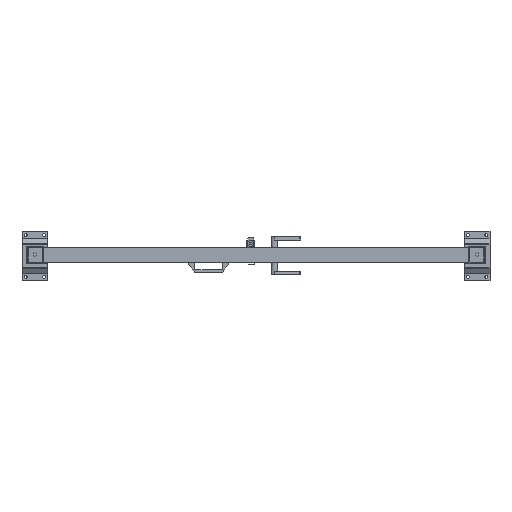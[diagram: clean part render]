
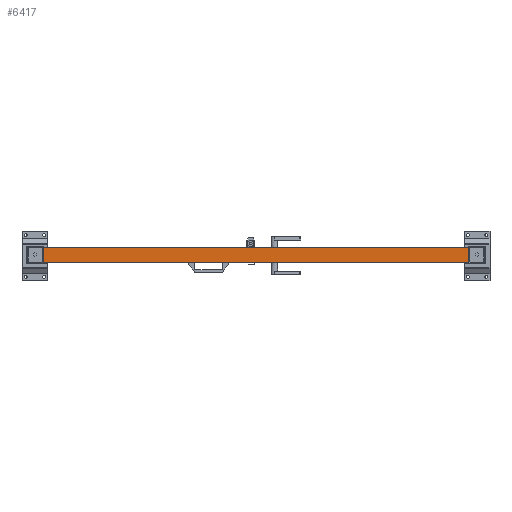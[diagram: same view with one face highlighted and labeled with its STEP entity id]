
A CAD part, top view. The second image highlights one B-rep face of the part: STEP entity #6417.
In plain terms, the highlighted planar face has unit normal (0, 0, 1).
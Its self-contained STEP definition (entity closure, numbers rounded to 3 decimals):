
#858=FACE_OUTER_BOUND('',#1186,.T.);
#1186=EDGE_LOOP('',(#4616,#4617,#4618,#4619));
#1606=LINE('',#9197,#2340);
#1607=LINE('',#9200,#2341);
#1608=LINE('',#9202,#2342);
#1609=LINE('',#9203,#2343);
#2340=VECTOR('',#7386,1.);
#2341=VECTOR('',#7389,1.);
#2342=VECTOR('',#7390,1.);
#2343=VECTOR('',#7391,1.);
#3051=VERTEX_POINT('',#9190);
#3054=VERTEX_POINT('',#9195);
#3055=VERTEX_POINT('',#9199);
#3056=VERTEX_POINT('',#9201);
#3690=EDGE_CURVE('',#3051,#3054,#1606,.T.);
#3691=EDGE_CURVE('',#3055,#3051,#1607,.T.);
#3692=EDGE_CURVE('',#3056,#3054,#1608,.T.);
#3693=EDGE_CURVE('',#3055,#3056,#1609,.T.);
#4616=ORIENTED_EDGE('',*,*,#3691,.T.);
#4617=ORIENTED_EDGE('',*,*,#3690,.T.);
#4618=ORIENTED_EDGE('',*,*,#3692,.F.);
#4619=ORIENTED_EDGE('',*,*,#3693,.F.);
#6163=PLANE('',#6771);
#6417=ADVANCED_FACE('',(#858),#6163,.T.);
#6771=AXIS2_PLACEMENT_3D('',#9198,#7387,#7388);
#7386=DIRECTION('',(1.,0.,0.));
#7387=DIRECTION('center_axis',(0.,0.,1.));
#7388=DIRECTION('ref_axis',(0.,-1.,0.));
#7389=DIRECTION('',(0.,-1.,0.));
#7390=DIRECTION('',(0.,-1.,0.));
#7391=DIRECTION('',(1.,0.,0.));
#9190=CARTESIAN_POINT('',(2042.708,1594.412,2599.));
#9195=CARTESIAN_POINT('',(3682.708,1594.412,2599.));
#9197=CARTESIAN_POINT('',(2042.708,1594.412,2599.));
#9198=CARTESIAN_POINT('Origin',(2042.708,1654.412,2599.));
#9199=CARTESIAN_POINT('',(2042.708,1654.412,2599.));
#9200=CARTESIAN_POINT('',(2042.708,1654.412,2599.));
#9201=CARTESIAN_POINT('',(3682.708,1654.412,2599.));
#9202=CARTESIAN_POINT('',(3682.708,1654.412,2599.));
#9203=CARTESIAN_POINT('',(2042.708,1654.412,2599.));
